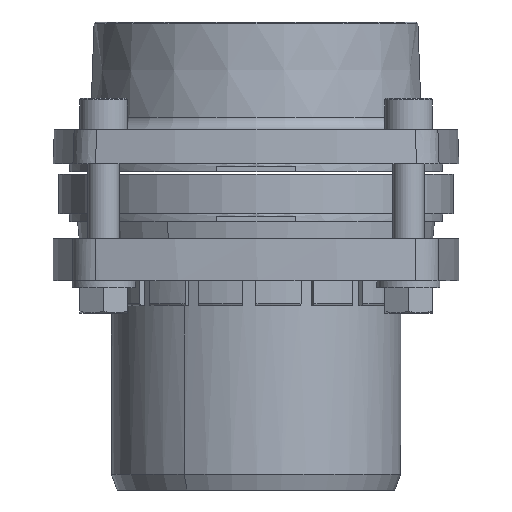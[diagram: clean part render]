
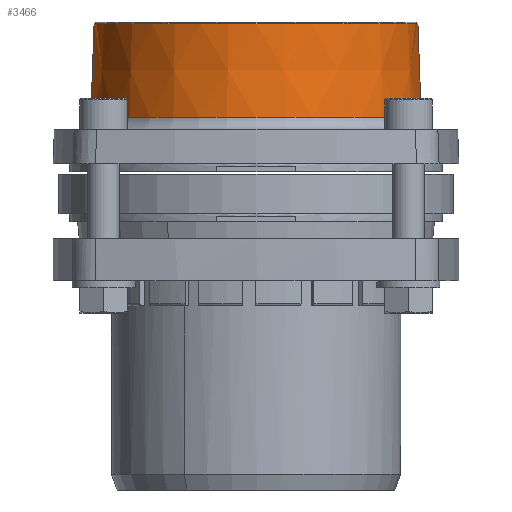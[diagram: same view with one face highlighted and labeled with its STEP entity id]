
A CAD part, front view. The second image highlights one B-rep face of the part: STEP entity #3466.
In plain terms, the highlighted conical face has half-angle 2 degrees and reference radius 63 mm.
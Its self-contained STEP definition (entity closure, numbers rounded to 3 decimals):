
#329 = VERTEX_POINT ( 'NONE', #901 ) ;
#330 = VERTEX_POINT ( 'NONE', #902 ) ;
#360 = VERTEX_POINT ( 'NONE', #932 ) ;
#363 = VERTEX_POINT ( 'NONE', #935 ) ;
#901 = CARTESIAN_POINT ( 'NONE',  ( -66.255, -4.614, 59.013 ) ) ;
#902 = CARTESIAN_POINT ( 'NONE',  ( 56.923, -4.614, 59.013 ) ) ;
#932 = CARTESIAN_POINT ( 'NONE',  ( -67.497, -4.614, 23.422 ) ) ;
#935 = CARTESIAN_POINT ( 'NONE',  ( 58.166, -4.614, 23.422 ) ) ;
#1300 = EDGE_LOOP ( 'NONE', ( #1417, #1418, #1419, #1420 ) ) ;
#1417 = ORIENTED_EDGE ( 'NONE', *, *, #7271, .T. ) ;
#1418 = ORIENTED_EDGE ( 'NONE', *, *, #7272, .T. ) ;
#1419 = ORIENTED_EDGE ( 'NONE', *, *, #7266, .T. ) ;
#1420 = ORIENTED_EDGE ( 'NONE', *, *, #7273, .F. ) ;
#2903 = CIRCLE ( 'NONE', #2911, 62.831 ) ;
#2911 = AXIS2_PLACEMENT_3D ( 'NONE', #8393, #8394, #8395 ) ;
#2915 = CIRCLE ( 'NONE', #2920, 61.589 ) ;
#2919 = VECTOR ( 'NONE', #8414, 1000. ) ;
#2920 = AXIS2_PLACEMENT_3D ( 'NONE', #8411, #8412, #8413 ) ;
#2921 = VECTOR ( 'NONE', #8417, 1000. ) ;
#3466 = ADVANCED_FACE ( 'NONE', ( #12080 ), #11838, .T. ) ;
#7266 = EDGE_CURVE ( 'NONE', #360, #363, #2903, .T. ) ;
#7271 = EDGE_CURVE ( 'NONE', #330, #329, #2915, .T. ) ;
#7272 = EDGE_CURVE ( 'NONE', #329, #360, #8400, .T. ) ;
#7273 = EDGE_CURVE ( 'NONE', #330, #363, #8415, .T. ) ;
#8393 = CARTESIAN_POINT ( 'NONE',  ( -4.666, -4.614, 23.422 ) ) ;
#8394 = DIRECTION ( 'NONE',  ( 0., 0., 1. ) ) ;
#8395 = DIRECTION ( 'NONE',  ( 1., 0., 0. ) ) ;
#8400 = LINE ( 'NONE', #8405, #2919 ) ;
#8405 = CARTESIAN_POINT ( 'NONE',  ( -67.666, -4.614, 18.597 ) ) ;
#8411 = CARTESIAN_POINT ( 'NONE',  ( -4.666, -4.614, 59.013 ) ) ;
#8412 = DIRECTION ( 'NONE',  ( 0., 0., -1. ) ) ;
#8413 = DIRECTION ( 'NONE',  ( -1., 0., 0. ) ) ;
#8414 = DIRECTION ( 'NONE',  ( -0.035, 0., -0.999 ) ) ;
#8415 = LINE ( 'NONE', #8416, #2921 ) ;
#8416 = CARTESIAN_POINT ( 'NONE',  ( 58.334, -4.614, 18.597 ) ) ;
#8417 = DIRECTION ( 'NONE',  ( 0.035, 0., -0.999 ) ) ;
#11838 = CONICAL_SURFACE ( 'NONE', #11839, 63., 0.035 ) ;
#11839 = AXIS2_PLACEMENT_3D ( 'NONE', #12083, #12081, #12078 ) ;
#12078 = DIRECTION ( 'NONE',  ( 1., 0., 0. ) ) ;
#12080 = FACE_OUTER_BOUND ( 'NONE', #1300, .T. ) ;
#12081 = DIRECTION ( 'NONE',  ( 0., 0., -1. ) ) ;
#12083 = CARTESIAN_POINT ( 'NONE',  ( -4.666, -4.614, 18.597 ) ) ;
